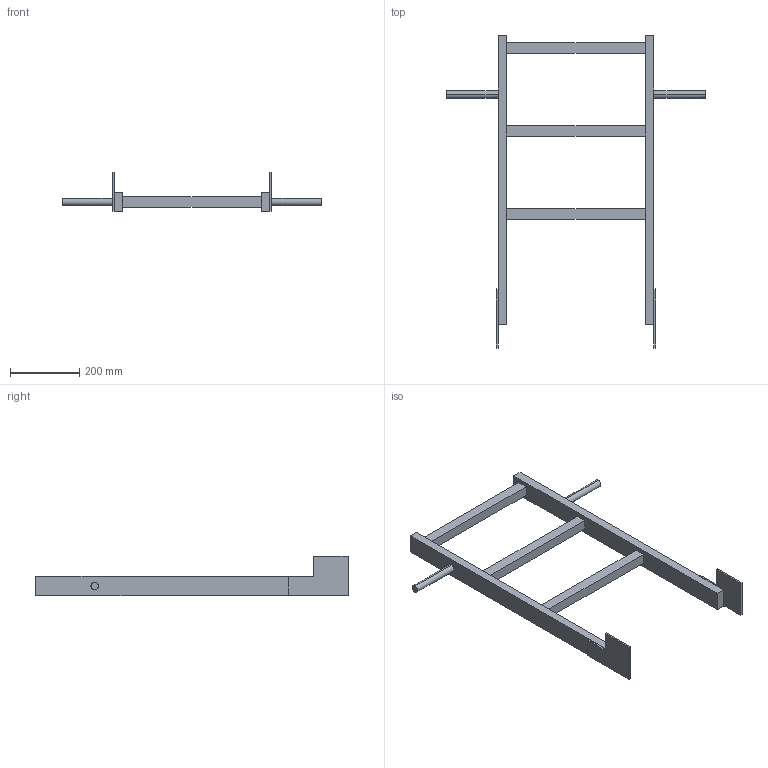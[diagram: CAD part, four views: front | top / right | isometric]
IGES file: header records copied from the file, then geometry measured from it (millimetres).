
Start section:  PTC IGES file: 52330690.igs
Global section: file name: 52330690.igs; native system: Creo Parametric by PTC Inc.; preprocessor: 2022162; author: wep; organization: Unknown; date: 20241218.081709; units: millimetre
Bounding box: 750 x 903 x 115 mm (x, y, z)
Surface area: 482154.8 mm2 (no closed solid volume)
Topology: 0 solids, 0 shells, 46 faces, 232 edges, 232 vertices
Faces by surface type: bspline 42, revolution 4
